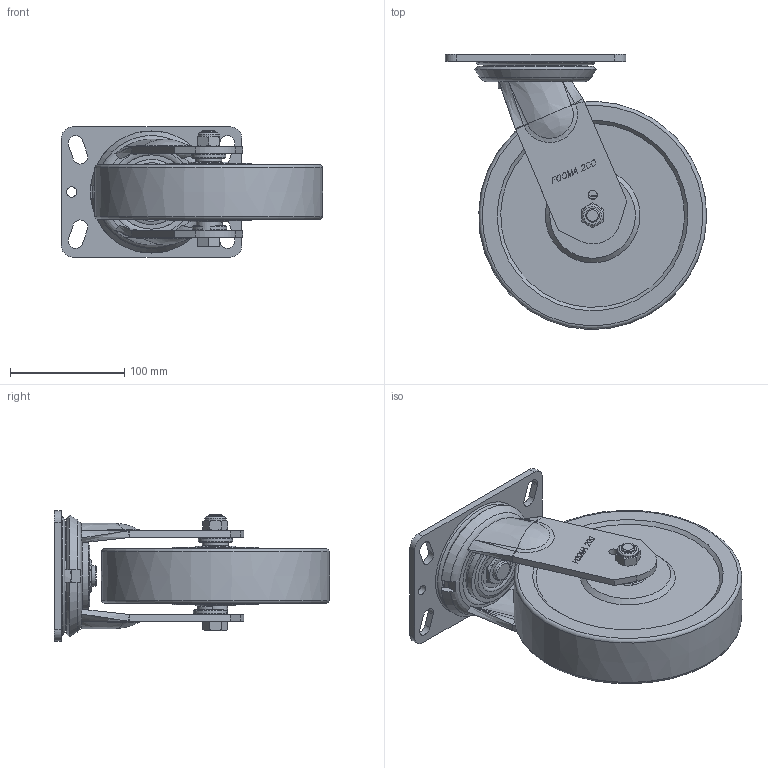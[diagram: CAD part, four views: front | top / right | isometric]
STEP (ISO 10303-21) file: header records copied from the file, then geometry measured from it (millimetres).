
FILE_DESCRIPTION(/* description */ (''),/* implementation_level */ '2;1');
FILE_NAME(/* name */ 'E:\★.DWG\PMH-SERIES\3D\홈페이지용\20180122-STEP\PMH-200-ASF-MCD.stp',/* time_stamp */ '2018-01-22T15:13:28+09:00',/* author */ ('장용하'),/* organization */ (''),/* preprocessor_version */ 'ST-DEVELOPER v16.13',/* originating_system */ 'Autodesk Inventor 2018',/* authorisation */ '');
FILE_SCHEMA (('AUTOMOTIVE_DESIGN { 1 0 10303 214 3 1 1 }'));
Length unit declared in the file: millimetre
Products named in the file (1): PMH-200-ASF-MCD_Shrinkwrap_1
Bounding box: 228.93 x 240.93 x 114 mm (x, y, z)
Volume: 1786958.6 mm3; surface area: 189139.5 mm2
Topology: 3 solids, 3 shells, 1109 faces, 3047 edges, 1994 vertices
Faces by surface type: plane 951, bspline 65, cylinder 40, cone 27, torus 26
Full cylindrical faces by diameter (mm): 8 x2, 9 x2, 12 x1, 18 x1, 18.5 x1, 21.667 x2, 21.867 x2, 22.9 x1, 28.133 x2, 28.333 x2, 30 x1, 35 x2, 65 x1, 90.814 x1
Entity records: 37292 total; most frequent: CARTESIAN_POINT 8666, ORIENTED_EDGE 5926, DIRECTION 5100, EDGE_CURVE 2963, LINE 2584, VECTOR 2584, VERTEX_POINT 1975, AXIS2_PLACEMENT_3D 1258
